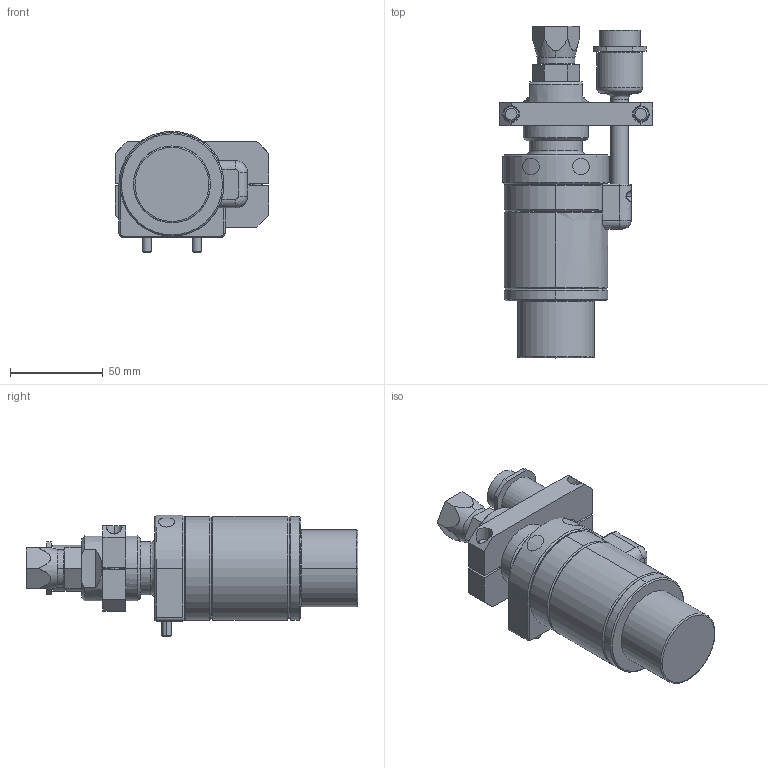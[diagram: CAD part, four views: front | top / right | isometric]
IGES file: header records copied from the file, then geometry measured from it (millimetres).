
Start section:  PTC IGES file: 289261-en-g.igs
Global section: file name: 289261-en-g.igs; native system: Creo Parametric by PTC Inc.; preprocessor: 2019030; author: qusrh3; organization: Unknown; date: 20191231.210316; units: inch
Bounding box: 82.55 x 178.69 x 65.35 mm (x, y, z)
Surface area: 60360.4 mm2 (no closed solid volume)
Topology: 0 solids, 0 shells, 186 faces, 818 edges, 818 vertices
Faces by surface type: revolution 109, bspline 77
